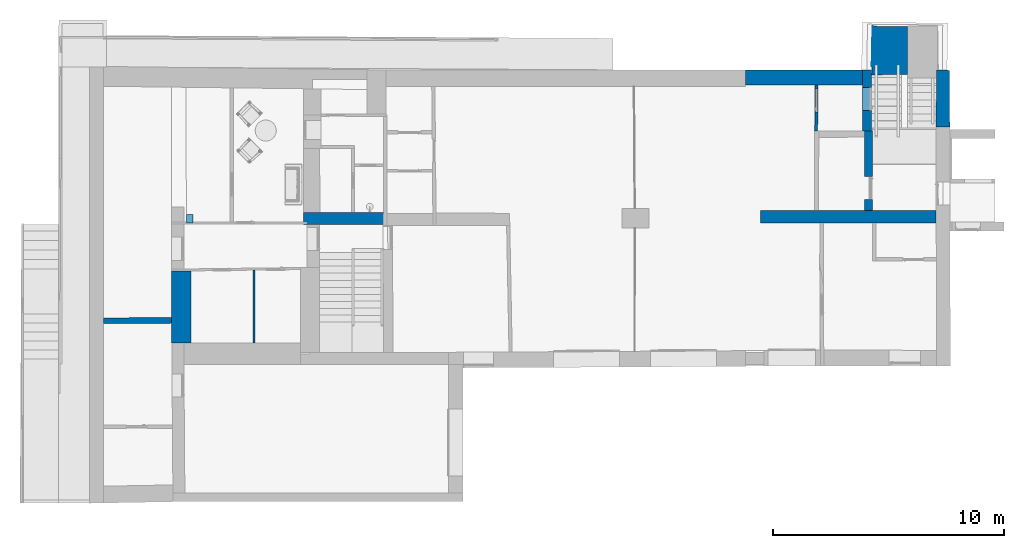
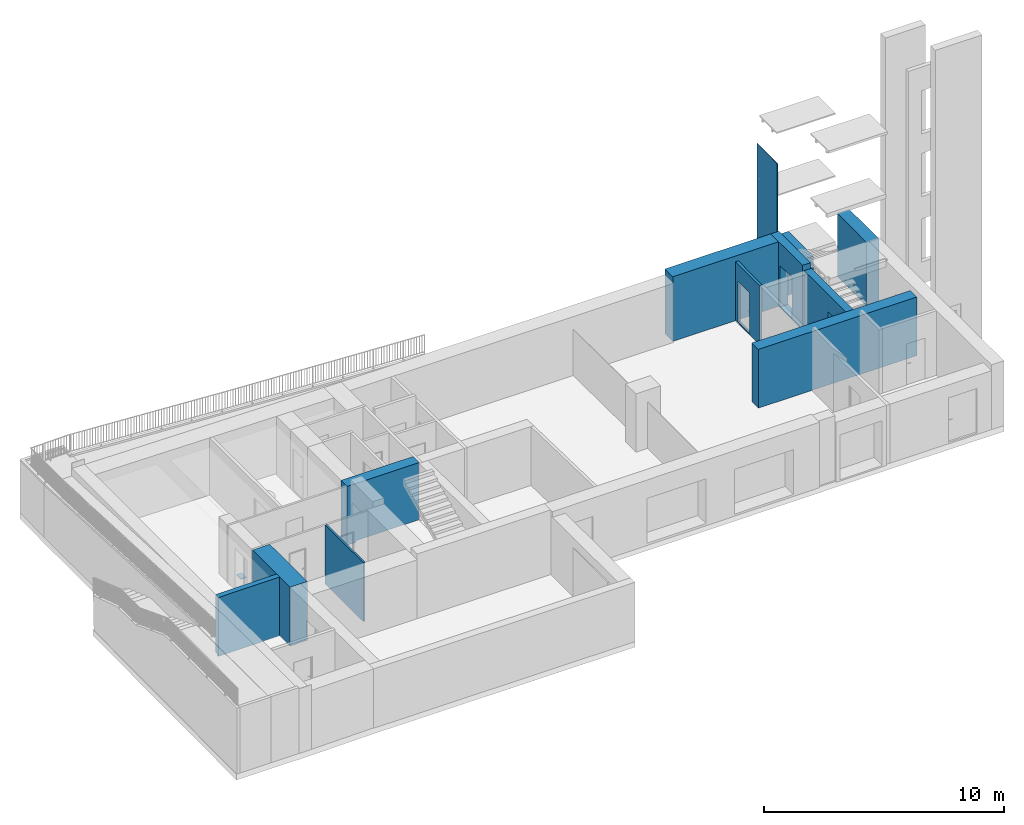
# One storey, part 5 of 17: 13 walls, 4 openings.
"""IFC2X3 building model written with IfcOpenShell, lengths in millimetres."""

from ifc_helpers import new_model, entity, si_unit, converted_unit, derived_unit, direction, frame, frame_2d, origin, place, context, subcontext, project, spatial, polyline, rectangle, outline, extrude, clip, bounded_halfspace, faceted_brep, material, layer, layer_set, layer_usage, type_object, element, save


model = new_model("IFC2X3")

# Units and contexts
model_context = context("Model", 3, precision=0.01, world=origin(), true_north=direction((6.12303176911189e-17, 1.0)))
context_of_model = context(None, 3, precision=0.01, world=origin(), true_north=direction((6.12303176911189e-17, 1.0)))
body_context = subcontext(model_context, "Body", "Model", "MODEL_VIEW")
ifc_project = project(units=[si_unit("LENGTHUNIT", "METRE", prefix="MILLI"), si_unit("AREAUNIT", "SQUARE_METRE"), si_unit("VOLUMEUNIT", "CUBIC_METRE"), converted_unit("PLANEANGLEUNIT", "DEGREE", entity("IfcRatioMeasure", 0.0174532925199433), si_unit("PLANEANGLEUNIT", "RADIAN"), dimensions=[0, 0, 0, 0, 0, 0, 0]), si_unit("MASSUNIT", "GRAM", prefix="KILO"), derived_unit("MASSDENSITYUNIT", [(si_unit("MASSUNIT", "GRAM", prefix="KILO"), 1), (si_unit("LENGTHUNIT", "METRE"), -3)]), si_unit("TIMEUNIT", "SECOND"), si_unit("FREQUENCYUNIT", "HERTZ"), si_unit("THERMODYNAMICTEMPERATUREUNIT", "DEGREE_CELSIUS"), derived_unit("THERMALTRANSMITTANCEUNIT", [(si_unit("MASSUNIT", "GRAM", prefix="KILO"), 1), (si_unit("THERMODYNAMICTEMPERATUREUNIT", "KELVIN"), -1), (si_unit("TIMEUNIT", "SECOND"), -3)]), derived_unit("VOLUMETRICFLOWRATEUNIT", [(si_unit("LENGTHUNIT", "METRE"), 3), (si_unit("TIMEUNIT", "SECOND"), -1)]), si_unit("ELECTRICCURRENTUNIT", "AMPERE"), si_unit("ELECTRICVOLTAGEUNIT", "VOLT"), si_unit("POWERUNIT", "WATT"), si_unit("FORCEUNIT", "NEWTON", prefix="KILO"), si_unit("ILLUMINANCEUNIT", "LUX"), si_unit("LUMINOUSFLUXUNIT", "LUMEN"), si_unit("LUMINOUSINTENSITYUNIT", "CANDELA"), derived_unit("USERDEFINED", [(si_unit("MASSUNIT", "GRAM", prefix="KILO"), -1), (si_unit("LENGTHUNIT", "METRE"), -2), (si_unit("TIMEUNIT", "SECOND"), 3), (si_unit("LUMINOUSFLUXUNIT", "LUMEN"), 1)]), derived_unit("LINEARVELOCITYUNIT", [(si_unit("LENGTHUNIT", "METRE"), 1), (si_unit("TIMEUNIT", "SECOND"), -1)]), si_unit("PRESSUREUNIT", "PASCAL"), derived_unit("USERDEFINED", [(si_unit("LENGTHUNIT", "METRE"), -2), (si_unit("MASSUNIT", "GRAM", prefix="KILO"), 1), (si_unit("TIMEUNIT", "SECOND"), -2)])], contexts=[model_context, context_of_model])

# Site, building, storey
site_placement = place(None, frame((121442.264707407, 135347.995453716, -1800.0)))
site = spatial("IfcSite", under=ifc_project, at=site_placement, Name="Surface", CompositionType="ELEMENT")
building_placement = place(site_placement, origin())
building = spatial("IfcBuilding", under=site, at=building_placement, CompositionType="ELEMENT")
storey_placement = place(building_placement, frame((0.0, 0.0, -1490.0)))
storey = spatial("IfcBuildingStorey", under=building, at=storey_placement, Name="Kelder", CompositionType="ELEMENT", Elevation=-1489.99999999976)

# Walls
ifc_material = material(Name="__Betoonelement")
ifc_layer_1 = layer(ifc_material, 540.0)
ifc_layer_set_1 = layer_set([ifc_layer_1], Name="Basic Wall:54_Betoon 2")
wall_type_1 = type_object("IfcWallType", Name="Basic Wall:54_Betoon 2", PredefinedType="STANDARD", material=ifc_layer_set_1)
wall_1_placement = place(storey_placement, frame((-82557.1387519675, -121218.674568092, 9.75812858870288), z_axis=(0.0, 0.0, 1.0), x_axis=(-1.0, 0.0, 0.0)))
element("IfcWall", 1, at=wall_1_placement, inside=storey, type_object=wall_type_1, Name="Basic Wall:54_Betoon 2", ObjectType="Basic Wall:54_Betoon 2", context=body_context, shape_type="Brep", body=[
    faceted_brep([(7621.28484567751, -270.0, 0.0), (7621.28484567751, -270.0, 2987.2418714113), (5288.21089446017, -270.0, 2987.2418714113), (5108.20752032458, -270.0, 2987.2418714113), (3102.09169820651, -270.0, 2987.2418714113), (2752.09019421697, -270.0, 2987.2418714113), (1.4036553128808, -270.0, 2987.2418714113), (1.4036553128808, -270.0, 28.9918714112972), (2927.09094621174, -270.0, 28.9918714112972), (2927.09094621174, -270.0, 0.0), (7621.28484567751, 270.0, 2987.2418714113), (7621.28484567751, 270.0, 0.0), (4964.84940452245, 270.0, 0.0), (4964.84940452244, 270.0, 0.241871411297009), (0.0, 270.0, 0.241871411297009), (0.0, 270.0, 2987.2418714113), (2926.29941578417, 0.0, 0.0), (4963.70134485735, 0.0, 0.0), (2926.29941578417, 0.0, 28.9918714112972), (0.701827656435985, 0.0, 28.9918714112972), (2926.29941578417, 0.0, 0.241871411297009), (0.701827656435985, -1.09153006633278e-09, 0.241871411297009), (4963.70134485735, 0.0, 0.241871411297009)], [[[0, 1, 2, 3, 4, 5, 6, 7, 8, 9]], [[10, 11, 12, 13, 14, 15]], [[11, 0, 9, 16, 17, 12]], [[1, 0, 11, 10]], [[18, 8, 7, 19]], [[8, 18, 20, 16, 9]], [[18, 19, 21, 20]], [[22, 20, 21, 14, 13]], [[20, 22, 17, 16]], [[22, 13, 12, 17]], [[6, 5, 4, 3, 2, 1, 10, 15]], [[6, 15, 14, 21, 19, 7]]]),
])
wall_type_2 = type_object("IfcWallType", Name="Basic Wall:25_Betoon", PredefinedType="NOTDEFINED")
wall_2_placement = place(storey_placement, frame((-118680.524785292, -125723.775260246, 0.0), z_axis=(0.0, 0.0, 1.0), x_axis=(0.999979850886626, 0.00634805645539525, 0.0)))
element("IfcWall", 2, at=wall_2_placement, inside=storey, type_object=wall_type_2, material=ifc_material, Name="Basic Wall:25_Betoon", ObjectType="Basic Wall:25_Betoon", context=body_context, shape_type="Brep", body=[
    faceted_brep([(0.0, -125.0, 0.0), (2965.08920246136, -125.0, 0.0), (2965.08920246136, -125.0, 2997.0), (2954.01418848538, -125.0, 2997.0), (0.0, -125.0, 2997.0), (1.58704609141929, 125.0, 2997.0), (2955.6012345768, 125.0, 2997.0), (2966.67624855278, 125.0, 2997.0), (2966.67624855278, 125.0, 87.0), (1.58704609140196, 125.0, 87.0), (0.793523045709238, 0.0, 0.0), (2965.88272550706, 0.0, 0.0), (0.793523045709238, 0.0, 87.0), (2965.88272550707, 0.0, 87.0)], [[[0, 1, 2, 3, 4]], [[5, 6, 7, 8, 9]], [[1, 0, 10, 11]], [[0, 4, 5, 9, 12, 10]], [[2, 1, 11, 13, 8, 7]], [[13, 12, 9, 8]], [[12, 13, 11, 10]], [[5, 4, 3, 6]], [[3, 2, 7, 6]]]),
])
ifc_layer_2 = layer(ifc_material, 830.0)
ifc_layer_set_2 = layer_set([ifc_layer_2], Name="Basic Wall:83_Betoon 5")
wall_type_3 = type_object("IfcWallType", Name="Basic Wall:83_Betoon 5", PredefinedType="STANDARD", material=ifc_layer_set_2)
wall_3_placement = place(storey_placement, frame((-115299.701819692, -123560.569178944, 0.0), z_axis=(0.0, 0.0, 1.0), x_axis=(0.0, -1.0, 0.0)))
element("IfcWall", 3, at=wall_3_placement, inside=storey, type_object=wall_type_3, Name="Basic Wall:83_Betoon 5", ObjectType="Basic Wall:83_Betoon 5", context=body_context, shape_type="Brep", body=[
    faceted_brep([(3133.73445791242, -415.0, 0.0), (3133.73445791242, -415.0, 2997.0), (2269.38100901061, -415.0, 2997.0), (2019.37597163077, -415.0, 2997.0), (9.84053148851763, -415.0, 2997.0), (9.84053148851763, -415.0, 87.0), (2019.37597163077, -415.0, 87.0), (2144.37849032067, -415.0, 87.0), (2144.37849032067, -415.0, 0.0), (2269.38100901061, -415.0, 0.0), (3133.73445791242, 415.0, 5.0), (0.0, 415.0, 5.0), (0.0, 415.0, 2997.0), (3133.73445791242, 415.0, 2997.0), (3133.73445791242, 0.0, 0.0), (2141.74399380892, 0.0, 0.0), (3133.73445791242, 0.0, 5.0), (3133.73445791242, 106.831786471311, 2997.0), (3133.73445791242, -413.183300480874, 2997.0), (2141.74399380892, 0.0, 5.0), (4.92026574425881, 0.0, 5.0), (2141.74399380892, 0.0, 87.0), (4.92026574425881, 0.0, 87.0)], [[[0, 1, 2, 3, 4, 5, 6, 7, 8, 9]], [[10, 11, 12, 13]], [[14, 0, 9, 8, 15]], [[1, 0, 14, 16, 10, 13, 17, 18]], [[11, 10, 16, 19, 20]], [[16, 14, 15, 19]], [[21, 7, 6, 5, 22]], [[21, 19, 15, 8, 7]], [[19, 21, 22, 20]], [[4, 3, 2, 1, 18, 17, 13, 12]], [[4, 12, 11, 20, 22, 5]]]),
])

# Wall, openings
ifc_layer_3 = layer(ifc_material, 390.0)
ifc_layer_set_3 = layer_set([ifc_layer_3], Name="Basic Wall:39_Betoon 3")
ifc_layer_usage_1 = layer_usage(ifc_layer_set_3, "AXIS2", "POSITIVE", -195.0)
wall_type_4 = type_object("IfcWallType", Name="Basic Wall:39_Betoon 3", PredefinedType="STANDARD", material=ifc_layer_set_3)
wall_4_placement = place(storey_placement, frame((-85548.9772613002, -117488.993950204, 0.0), z_axis=(0.0, 0.0, 1.0), x_axis=(0.0, 1.0, 0.0)))
wall_4 = element("IfcWallStandardCase", 4, at=wall_4_placement, inside=storey, type_object=wall_type_4, material=ifc_layer_usage_1, Name="Basic Wall:39_Betoon 3", ObjectType="Basic Wall:39_Betoon 3", context=body_context, shape_type="SweptSolid", body=[
    extrude(outline(polyline([(-247.566150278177, -1434.44422689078), (142.433849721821, -1434.44422689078), (142.433849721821, -774.444226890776), (142.433849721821, 1215.38830939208), (67.8307513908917, 1214.93352456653), (-247.566150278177, 1213.01084671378), (-247.566150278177, -1434.44422689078)])), frame((1215.38830939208, 52.5661502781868, 0.0), z_axis=(0.0, 0.0, 1.0), x_axis=(0.0, 1.0, 0.0)), (0.0, 0.0, 1.0), 3290.0),
])
opening_1_placement = place(storey_placement, frame((-85548.9772613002, -117488.993950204, 0.0), z_axis=(0.0, 0.0, 1.0), x_axis=(0.0, 1.0, 0.0)))
element("IfcOpeningElement", 5, at=opening_1_placement, cuts=wall_4, Name="Basic Wall:39_Betoon 3:1", ObjectType="Opening", context=body_context, shape_type="SweptSolid", body=[
    extrude(rectangle(XDim=2099.99999999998, YDim=999.999999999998, at=frame_2d((0.0, 8.66862137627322e-12), x_axis=(1.0, 0.0))), frame((1378.89145404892, 195.0, 1095.0), z_axis=(0.0, -1.0, 0.0), x_axis=(0.0, 0.0, 1.0)), (0.0, 0.0, 1.0), 389.999999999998),
])
opening_2_placement = place(wall_4_placement, frame((1878.89145404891, 195.0, 45.0)))
element("IfcOpeningElement", 6, at=opening_2_placement, cuts=wall_4, Name="sma_D01:1000 x 2100mm SU-9 Tuletokke:1", ObjectType="Opening", context=body_context, shape_type="SweptSolid", body=[
    extrude(rectangle(XDim=2099.99999999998, YDim=1000.0, at=frame_2d((1049.99999999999, 500.0), x_axis=(1.0, 0.0))), frame((0.0, 0.0, 0.0), z_axis=(0.0, -1.0, 0.0), x_axis=(0.0, 0.0, 1.0)), (0.0, 0.0, 1.0), 390.0),
])

# Wall
ifc_layer_4 = layer(ifc_material, 90.0)
ifc_layer_set_4 = layer_set([ifc_layer_4], Name="Basic Wall:9_Betoon 2")
wall_type_5 = type_object("IfcWallType", Name="Basic Wall:9_Betoon 2", PredefinedType="STANDARD", material=ifc_layer_set_4)
wall_5_placement = place(storey_placement, frame((-112152.841551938, -123527.794828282, 0.0), z_axis=(0.0, 0.0, 1.0), x_axis=(0.00329497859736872, -0.999994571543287, 0.0)))
element("IfcWall", 7, at=wall_5_placement, inside=storey, type_object=wall_type_5, Name="Basic Wall:9_Betoon 2", ObjectType="Basic Wall:9_Betoon 2", context=body_context, shape_type="Brep", body=[
    faceted_brep([(3166.37772308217, -45.0, 3012.0), (0.77046580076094, -45.0, 3012.0), (0.77046580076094, -45.0, 5.0), (3166.37772308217, -45.0, 5.0), (3166.67427276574, 45.0, 0.0), (0.0, 45.0, 0.0), (0.0, 45.0, 3012.0), (3166.67427276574, 45.0, 3012.0), (3166.52599792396, 0.0, 0.0), (0.385232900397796, 0.0, 0.0), (3166.52599792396, 0.0, 5.0), (0.38523290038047, 0.0, 5.0)], [[[0, 1, 2, 3]], [[4, 5, 6, 7]], [[5, 4, 8, 9]], [[1, 0, 7, 6]], [[4, 7, 0, 3, 10, 8]], [[1, 6, 5, 9, 11, 2]], [[11, 10, 3, 2]], [[10, 11, 9, 8]]]),
])

# Wall, opening
wall_type_6 = type_object("IfcWallType", Name="Basic Wall:35_Betoon 3", PredefinedType="NOTDEFINED")
wall_6_placement = place(storey_placement, frame((-85484.2281941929, -120949.187594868, 0.0), z_axis=(0.0, 0.0, 1.0), x_axis=(-0.00293158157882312, 0.999995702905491, 0.0)))
wall_6 = element("IfcWall", 8, at=wall_6_placement, inside=storey, type_object=wall_type_6, material=ifc_material, Name="Basic Wall:35_Betoon 3", ObjectType="Basic Wall:35_Betoon 3", context=body_context, shape_type="Brep", body=[
    faceted_brep([(0.0, -175.0, 2997.0), (0.0, -175.0, 0.0), (484.659588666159, -175.0, 0.0), (484.659588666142, -175.0, 2100.0), (1484.65958866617, -175.0, 2100.0), (1484.65958866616, -175.0, 0.0), (3462.28387186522, -175.0, 0.0), (3462.28387186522, -175.0, 2997.0), (2173.3944385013, -175.0, 2997.0), (1.02605796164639, 175.0, 0.0), (1.02605796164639, 175.0, 2997.0), (2174.42049646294, 175.0, 2997.0), (3191.17497745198, 175.0, 2997.0), (3461.17632926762, 175.0, 2997.0), (3461.17632926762, 175.0, 0.0), (3191.17497745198, 175.0, 0.0), (1484.65958866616, 175.0, 0.0), (1484.65958866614, 175.0, 2100.0), (484.659588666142, 175.0, 2100.0), (484.659588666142, 175.0, 0.0)], [[[0, 1, 2, 3, 4, 5, 6, 7, 8]], [[9, 10, 11, 12, 13, 14, 15, 16, 17, 18, 19]], [[1, 9, 19, 2]], [[1, 0, 10, 9]], [[7, 6, 14, 13]], [[7, 13, 12, 11, 8]], [[0, 8, 11, 10]], [[18, 3, 2, 19]], [[3, 18, 17, 4]], [[4, 17, 16, 5]], [[14, 6, 5, 16, 15]]]),
])
opening_3_placement = place(wall_6_placement, frame((1484.1401821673, 176.465790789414, 0.0)))
element("IfcOpeningElement", 9, at=opening_3_placement, cuts=wall_6, Name="sma_D01:1000 x 2100mm SU-9 Tuletokke:1", ObjectType="Opening", context=body_context, shape_type="SweptSolid", body=[
    extrude(rectangle(XDim=2099.99999999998, YDim=1000.0, at=frame_2d((1049.99999999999, 500.0), x_axis=(1.0, 0.0))), frame((0.0, 0.0, 0.0), z_axis=(0.00293158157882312, -0.999995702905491, 0.0), x_axis=(0.0, 0.0, 1.0)), (0.0, 0.0, 1.0), 350.0),
])

ifc_layer_5 = layer(ifc_material, 130.0)
ifc_layer_set_5 = layer_set([ifc_layer_5], Name="Basic Wall:13_Betoon 2")
ifc_layer_usage_2 = layer_usage(ifc_layer_set_5, "AXIS2", "NEGATIVE", 65.0)
wall_type_7 = type_object("IfcWallType", Name="Basic Wall:13_Betoon 2", PredefinedType="STANDARD", material=ifc_layer_set_5)
wall_7_placement = place(storey_placement, frame((-87761.421549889, -117502.124568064, 0.0), z_axis=(0.0, 0.0, 1.0), x_axis=(0.00670654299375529, 0.999977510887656, 0.0)))
wall_7 = element("IfcWallStandardCase", 10, at=wall_7_placement, inside=storey, type_object=wall_type_7, material=ifc_layer_usage_2, Name="Basic Wall:13_Betoon 2", ObjectType="Basic Wall:13_Betoon 2", context=body_context, shape_type="Clipping", body=[
    clip(extrude(outline(polyline([(2003.44413511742, -65.0), (2002.57226492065, 65.0), (0.0, 65.0), (0.0278621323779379, 62.8238277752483), (1.66442580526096, -65.0), (2003.44413511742, -65.0)])), origin(), (0.0, 0.0, 1.0), 2997.0), bounded_halfspace(frame((1.66442580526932, -65.0, 2997.0), z_axis=(0.0, 0.0, -1.0), x_axis=(-0.999977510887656, -0.00670654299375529, 0.0)), True, frame((1.66442580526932, -65.0, 2997.0)), polyline([(0.0, 0.0), (2001.77970931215, 0.0), (2000.90783911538, 130.0), (-1.66442580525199, 130.0), (-1.63656367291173, 127.823827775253), (0.0, 0.0)]))),
])
opening_4_placement = place(wall_7_placement, frame((1826.93806172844, 65.0, 32.5000000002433)))
element("IfcOpeningElement", 11, at=opening_4_placement, cuts=wall_7, Name="sma_D01:1000 x 2100mm SU-9 Tuletokke:1", ObjectType="Opening", context=body_context, shape_type="SweptSolid", body=[
    extrude(rectangle(XDim=2099.99999999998, YDim=1000.0, at=frame_2d((1049.99999999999, 500.0), x_axis=(1.0, 0.0))), frame((0.0, 0.0, 0.0), z_axis=(0.0, -1.0, 0.0), x_axis=(0.0, 0.0, 1.0)), (0.0, 0.0, 1.0), 130.0),
])

# Walls
ifc_layer_6 = layer(ifc_material, 510.0)
ifc_layer_set_6 = layer_set([ifc_layer_6], Name="Basic Wall:51_Betoon 2")
wall_type_8 = type_object("IfcWallType", Name="Basic Wall:51_Betoon 2", PredefinedType="STANDARD", material=ifc_layer_set_6)
wall_8_placement = place(storey_placement, frame((-106526.566491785, -121285.748452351, 0.0), z_axis=(0.0, 0.0, 1.0), x_axis=(-1.0, 0.0, 0.0)))
element("IfcWall", 12, at=wall_8_placement, inside=storey, type_object=wall_type_8, Name="Basic Wall:51_Betoon 2", ObjectType="Basic Wall:51_Betoon 2", context=body_context, shape_type="Brep", body=[
    faceted_brep([(3463.33379394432, -255.0, 0.0), (3463.33379394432, -255.0, 2997.0), (2763.33144904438, -255.0, 2997.0), (1395.96896872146, -255.0, 2997.0), (1265.96896872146, -255.0, 2997.0), (0.0, -255.0, 2997.0), (0.0, -255.0, 87.0), (3113.33262149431, -255.0, 87.0), (3113.33262149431, -255.0, 0.0), (3462.01371873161, 255.0, 2997.0), (3462.01371873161, 255.0, 0.0), (3312.58158922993, 255.0, 0.0), (3042.58158922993, 255.0, 0.0), (3042.58158922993, 255.0, 87.0), (0.0, 255.0, 87.0), (0.0, 255.0, 2997.0), (3112.67258388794, 0.0, 0.0), (3042.58158922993, 0.0, 0.0), (3042.58158922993, 0.0, 87.0), (3112.67258388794, 0.0, 87.0)], [[[0, 1, 2, 3, 4, 5, 6, 7, 8]], [[9, 10, 11, 12, 13, 14, 15]], [[10, 0, 8, 16, 17, 12, 11]], [[15, 14, 6, 5]], [[1, 0, 10, 9]], [[13, 18, 19, 7, 6, 14]], [[18, 13, 12, 17]], [[19, 18, 17, 16]], [[7, 19, 16, 8]], [[5, 4, 3, 2, 1, 9, 15]]]),
])
wall_type_9 = type_object("IfcWallType", Name="Walls 5:Walls 5", PredefinedType="NOTDEFINED")
wall_9_placement = place(storey_placement, frame((-82567.9742602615, -117319.983765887, 0.0), z_axis=(0.0, 0.0, 1.0), x_axis=(0.0, 1.0, 0.0)))
element("IfcWall", 13, at=wall_9_placement, inside=storey, type_object=wall_type_9, Name="Walls 5:Walls 5", ObjectType="Walls 5:Walls 5", context=body_context, shape_type="SweptSolid", body=[
    extrude(outline(polyline([(-294.07553686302, -1643.57578695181), (305.924036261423, -1643.57578695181), (298.062668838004, 816.999361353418), (194.758449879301, 818.642666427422), (-246.190137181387, 825.65702709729), (-258.479480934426, 825.852519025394), (-294.07553686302, -1643.57578695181)])), frame((1644.33464052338, -289.802309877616, 0.0), z_axis=(0.0, 0.0, 1.0), x_axis=(0.00259935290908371, -0.99999662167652, 0.0)), (0.0, 0.0, 1.0), 3230.66893549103),
])
wall_type_10 = type_object("IfcWallType", Name="Walls 10:Walls 10", PredefinedType="NOTDEFINED")
wall_10_placement = place(storey_placement, frame((-85345.9961522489, -114681.919112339, 1604.86571189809), z_axis=(0.0, 0.0, 1.0), x_axis=(0.0, 1.0, 0.0)))
element("IfcWall", 14, at=wall_10_placement, inside=storey, type_object=wall_type_10, Name="Walls 10:Walls 10", ObjectType="Walls 10:Walls 10", context=body_context, shape_type="SweptSolid", body=[
    extrude(outline(polyline([(-1157.16414818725, -10.7723009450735), (578.914032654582, -10.7723009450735), (578.250115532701, 21.5446018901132), (-1157.16414818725, -10.7723009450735)])), frame((578.570645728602, -22.6607054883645, 0.0), z_axis=(0.0, 0.0, 1.0), x_axis=(-0.999789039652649, 0.0205396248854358, 0.0)), (0.0, 0.0, 1.0), 5010.13428810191),
])
ifc_layer_7 = layer(ifc_material, 660.0)
ifc_layer_set_7 = layer_set([ifc_layer_7], Name="Basic Wall:66_Betoon 2")
ifc_layer_usage_3 = layer_usage(ifc_layer_set_7, "AXIS2", "NEGATIVE", 330.0)
wall_type_11 = type_object("IfcWallType", Name="Basic Wall:66_Betoon 2", PredefinedType="STANDARD", material=ifc_layer_set_7)
wall_11_placement = place(storey_placement, frame((-90905.2137146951, -115169.161413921, 0.0)))
element("IfcWallStandardCase", 15, at=wall_11_placement, inside=storey, type_object=wall_type_11, material=ifc_layer_usage_3, Name="Basic Wall:66_Betoon 2", ObjectType="Basic Wall:66_Betoon 2", context=body_context, shape_type="SweptSolid", body=[
    extrude(rectangle(XDim=5094.66695858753, YDim=660.000000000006, at=frame_2d((2613.90297410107, -7.02016222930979e-12), x_axis=(-1.0, 0.0))), origin(), (0.0, 0.0, 1.0), 3290.0),
])
wall_type_12 = type_object("IfcWallType", Name="Walls 16:Walls 16", PredefinedType="NOTDEFINED")
wall_12_placement = place(storey_placement, frame((-85353.4683236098, -115056.133673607, 38.7500000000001), z_axis=(0.0, 0.0, 1.0), x_axis=(0.0, 1.0, 0.0)))
element("IfcWall", 16, at=wall_12_placement, inside=storey, type_object=wall_type_12, Name="Walls 16:Walls 16", ObjectType="Walls 16:Walls 16", context=body_context, shape_type="SweptSolid", body=[
    extrude(outline(polyline([(-1251.85653082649, -609.05466048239), (847.491211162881, -609.054660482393), (857.984311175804, -608.692433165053), (812.973608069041, 934.762138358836), (-1266.59259958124, 892.039615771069), (-1251.85653082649, -609.05466048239)])), frame((845.300996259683, -626.33332567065, 0.0), z_axis=(0.0, 0.0, 1.0), x_axis=(-0.999789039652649, 0.0205396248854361, 0.0)), (0.0, 0.0, 1.0), 1566.11571189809),
])
wall_type_13 = type_object("IfcWallType", Name="Walls 19:Walls 19", PredefinedType="NOTDEFINED")
wall_13_placement = place(storey_placement, frame((-115076.523319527, -121478.711626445, 0.0), z_axis=(0.0, 0.0, 1.0), x_axis=(0.0, 1.0, 0.0)))
element("IfcWall", 17, at=wall_13_placement, inside=storey, type_object=wall_type_13, Name="Walls 19:Walls 19", ObjectType="Walls 19:Walls 19", context=body_context, shape_type="SweptSolid", body=[
    extrude(outline(polyline([(-184.757676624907, -137.02542150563), (184.555232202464, -137.02542150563), (183.542719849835, 136.079917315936), (-183.340275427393, 137.970925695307), (-184.757676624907, -137.02542150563)])), frame((185.259035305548, -137.975876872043, 0.0), z_axis=(0.0, 0.0, 1.0), x_axis=(-0.99998671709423, -0.00515418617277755, 0.0)), (0.0, 0.0, 1.0), 40.0000000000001),
])

save(model, "model.ifc")
